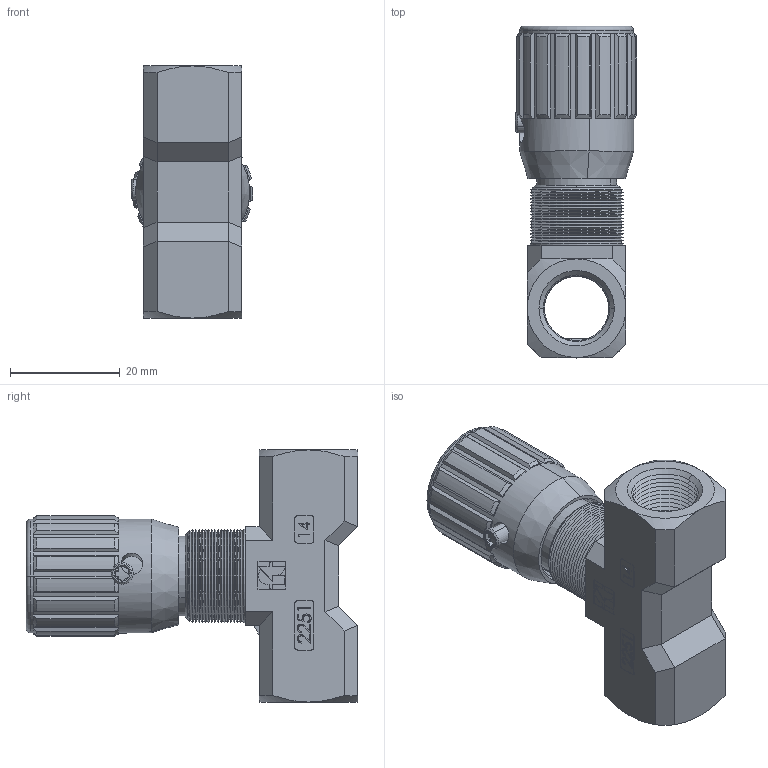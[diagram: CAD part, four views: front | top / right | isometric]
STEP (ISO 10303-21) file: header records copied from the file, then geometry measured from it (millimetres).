
FILE_DESCRIPTION (( 'STEP AP214' ), '1' );
FILE_NAME ('FT2251-2-14.STEP', '2015-04-15T19:13:52', ( '' ), ( '' ), 'SwSTEP 2.0', 'SolidWorks 2014', '' );
FILE_SCHEMA (( 'AUTOMOTIVE_DESIGN' ));
Length unit declared in the file: millimetre
Products named in the file (1): FT2251-2-14
Bounding box: 22.23 x 60.5 x 46 mm (x, y, z)
Surface area: 9439.9 mm2 (no closed solid volume)
Topology: 0 solids, 25 shells, 546 faces, 1810 edges, 1243 vertices
Faces by surface type: plane 251, cone 202, cylinder 65, bspline 26, torus 2
Entity records: 27668 total; most frequent: CARTESIAN_POINT 6205, DIRECTION 3103, ORIENTED_EDGE 2998, EDGE_CURVE 1810, VERTEX_POINT 1243, VECTOR 1197, LINE 1197, AXIS2_PLACEMENT_3D 953
